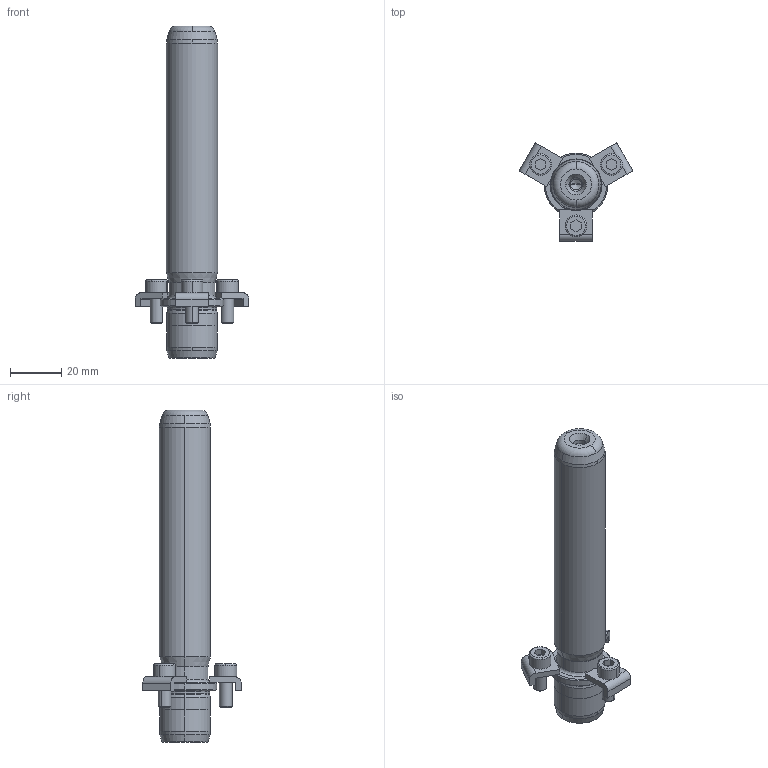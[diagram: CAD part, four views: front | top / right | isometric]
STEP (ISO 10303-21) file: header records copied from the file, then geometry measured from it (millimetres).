
FILE_DESCRIPTION((''),'2;1');
FILE_NAME('P21_020_110.stp','2008-12-19T11:23:05',(''),(''),'Mechanical Desktop 2009','Mechanical Desktop 2009',', , ');
FILE_SCHEMA(('CONFIG_CONTROL_DESIGN'));
Length unit declared in the file: millimetre
Products named in the file (2): Product; blmdl1
Assembly tree (1 placements, depth 2):
  Product
    blmdl1
Bounding box: 44.46 x 38.5 x 130 mm (x, y, z)
Volume: 42399.3 mm3; surface area: 12271.2 mm2
Topology: 7 solids, 7 shells, 169 faces, 417 edges, 269 vertices
Faces by surface type: plane 62, cylinder 47, cone 32, bspline 18, torus 10
Entity records: 5881 total; most frequent: CARTESIAN_POINT 1645, DIRECTION 936, ORIENTED_EDGE 826, EDGE_CURVE 413, AXIS2_PLACEMENT_3D 370, VERTEX_POINT 269, CIRCLE 217, VECTOR 196
